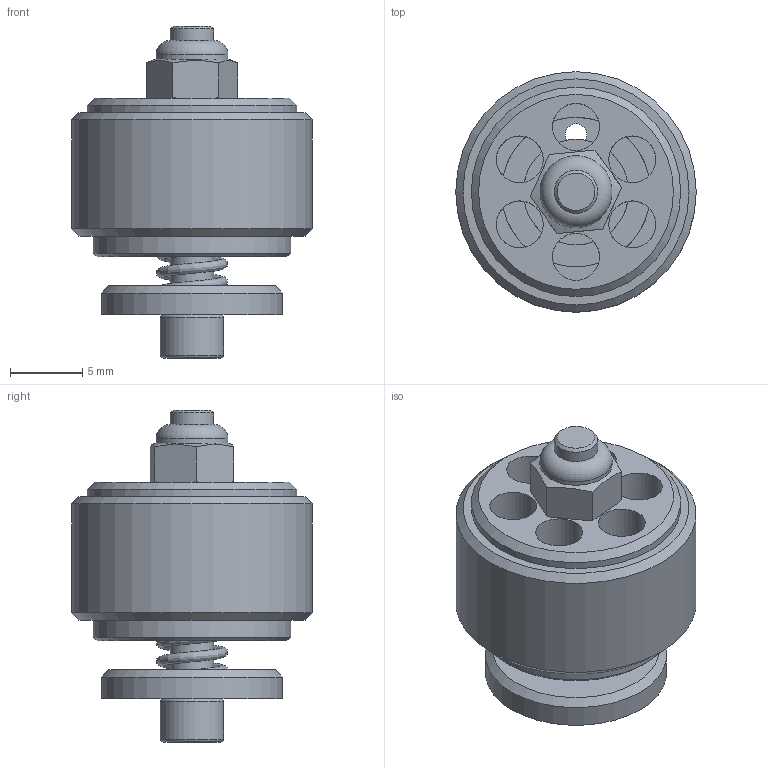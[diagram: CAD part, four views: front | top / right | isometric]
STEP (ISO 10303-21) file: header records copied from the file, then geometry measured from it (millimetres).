
FILE_DESCRIPTION(/* description */ ('Unknown'),/* implementation_level */ '2;1');
FILE_NAME(/* name */ 'VURP38',/* time_stamp */ '2024-12-05T10:45:42+01:00',/* author */ ('Unknown'),/* organization */ ('Unknown'),/* preprocessor_version */ 'ST-DEVELOPER v19.4',/* originating_system */ 'Solid Edge',/* authorisation */ 'Unknown');
FILE_SCHEMA (('AUTOMOTIVE_DESIGN {1 0 10303 214 3 1 1}'));
Length unit declared in the file: millimetre
Products named in the file (1): VURP38
Bounding box: 16.66 x 16.66 x 23 mm (x, y, z)
Volume: 1994.2 mm3; surface area: 2421.3 mm2
Topology: 1 solids, 1 shells, 79 faces, 191 edges, 118 vertices
Faces by surface type: plane 42, cylinder 18, cone 14, torus 4, bspline 1
Full cylindrical faces by diameter (mm): 1.5 x1, 3 x2, 3.25 x6, 4.4 x1, 5 x1, 5.5 x1, 7.3 x1, 10.35 x1, 12.55 x1, 13.66 x1, 14.5 x1, 16.662 x1
Entity records: 6128 total; most frequent: CARTESIAN_POINT 3904, DIRECTION 366, ORIENTED_EDGE 284, AXIS2_PLACEMENT_3D 171, EDGE_CURVE 142, EDGE_LOOP 128, FACE_BOUND 128, VERTEX_POINT 100
